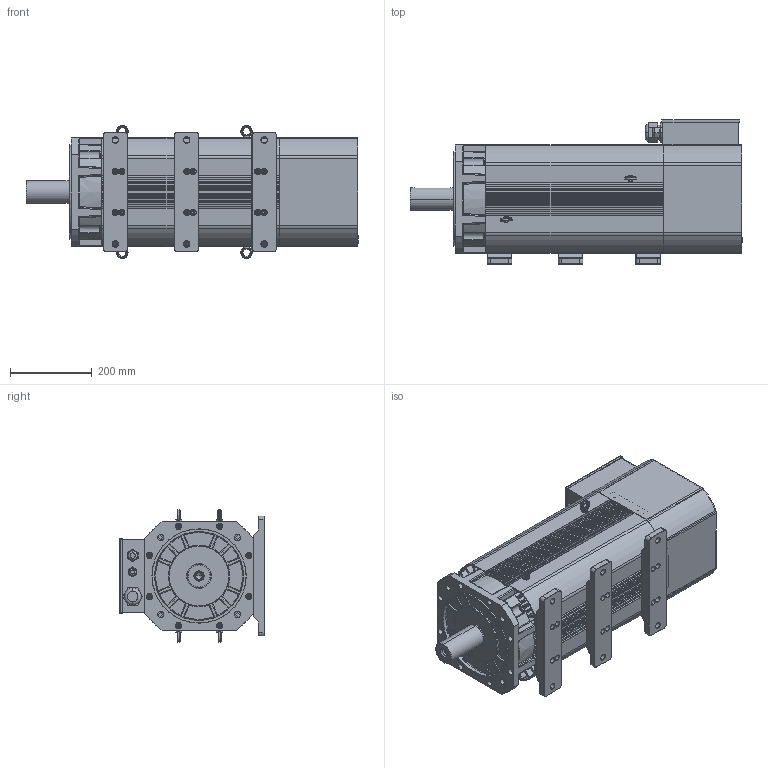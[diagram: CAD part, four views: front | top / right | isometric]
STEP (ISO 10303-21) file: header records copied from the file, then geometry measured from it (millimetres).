
FILE_DESCRIPTION (( 'STEP AP203' ), '1' );
FILE_NAME ('265F-B35-55J 俋倛芞.STEP', '2022-04-15T09:04:45', ( '' ), ( '' ), 'SwSTEP 2.0', 'SolidWorks 2016', '' );
FILE_SCHEMA (( 'CONFIG_CONTROL_DESIGN' ));
Length unit declared in the file: millimetre
Products named in the file (22): 齬脣鼠芛; 齬脣晤鎢ん啣; ヶ裔55J郪璃; M8X12裂遠; M20X1.5蹟杶; 265F儂褲30KW; 265諉盄碟裔; 265F-B35-55J 俋倛芞; 瑞儂諉盄翐; 265諉盄碟; 265后端盖铸铁_光电编码器; 265-55J-粣18.5kw; M16X1.5蹟杶; 265菁褐; 接线盒后盖风罩组件; 265芧埽ヶ傷裔; M36蹟杶; 諉盄碟郪璃; cross recessed cheese head screws gb_GB_CROSS_SCREWS_TYPE2 M3X4-4  H type-N; 265瑞欶
Assembly tree (31 placements, depth 5):
  265F-B35-55J 俋倛芞
    265F儂褲30KW
    ヶ裔55J郪璃
      265芧埽ヶ傷裔
      265-55J-粣18.5kw
    接线盒后盖风罩组件
      265后端盖铸铁_光电编码器
      265瑞欶
      諉盄碟郪璃
        265諉盄碟
        M36蹟杶
        M16X1.5蹟杶
        M20X1.5蹟杶
        265諉盄碟裔
        瑞儂諉盄翐
          瑞儂諉盄翐
          cross recessed cheese head screws gb_GB_CROSS_SCREWS_TYPE2 M3X4-4  H type-N  x6
        齬脣晤鎢ん啣
          齬脣晤鎢ん啣
          齬脣鼠芛
    M8X12裂遠  x4
    265菁褐  x3
Bounding box: 810 x 352.5 x 324 mm (x, y, z)
Volume: 11135042.9 mm3; surface area: 3089003.8 mm2
Topology: 26 solids, 26 shells, 2708 faces, 7117 edges, 4409 vertices
Faces by surface type: cylinder 1133, plane 914, cone 271, torus 184, bspline 126, sphere 80
Entity records: 77500 total; most frequent: CARTESIAN_POINT 18030, DIRECTION 12456, ORIENTED_EDGE 11694, EDGE_CURVE 5847, AXIS2_PLACEMENT_3D 4768, VERTEX_POINT 3692, VECTOR 2920, LINE 2920
